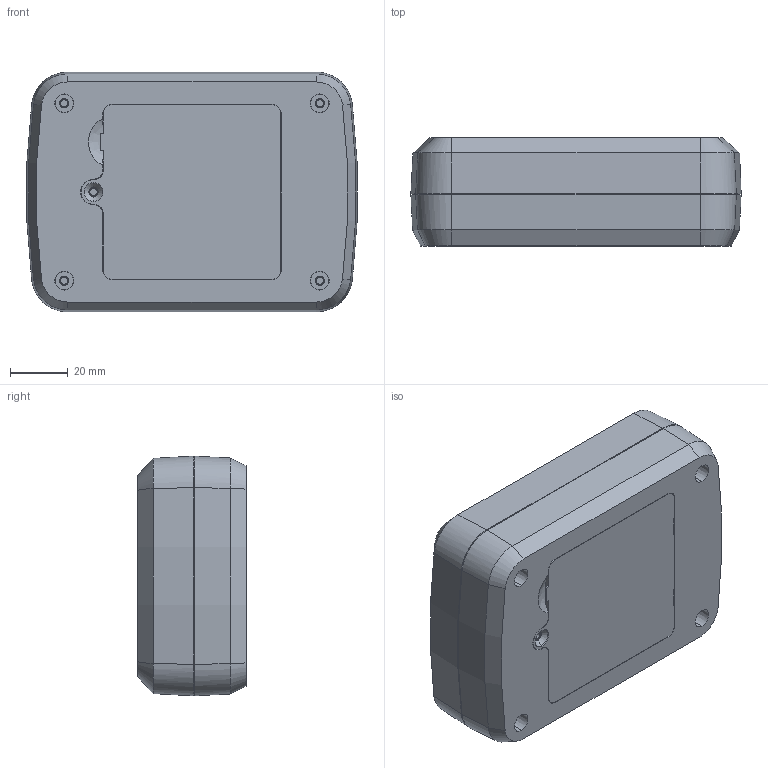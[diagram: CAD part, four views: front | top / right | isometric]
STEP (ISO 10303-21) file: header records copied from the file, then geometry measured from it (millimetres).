
FILE_DESCRIPTION (( 'STEP AP203' ), '1' );
FILE_NAME ('HH-048.STEP', '2024-03-06T09:37:55', ( '' ), ( '' ), 'SwSTEP 2.0', 'SolidWorks 2013', '' );
FILE_SCHEMA (( 'CONFIG_CONTROL_DESIGN' ));
Length unit declared in the file: millimetre
Products named in the file (6): cover_2; cover; base; HH-048; base_2
Assembly tree (5 placements, depth 3):
  HH-048
    base
      base
      base_2
    cover
      cover_2
Bounding box: 113.98 x 37.3 x 82.7 mm (x, y, z)
Volume: 78987.4 mm3; surface area: 81740.3 mm2
Topology: 3 solids, 3 shells, 545 faces, 1488 edges, 977 vertices
Faces by surface type: plane 351, cone 82, bspline 74, cylinder 38
Entity records: 25893 total; most frequent: CARTESIAN_POINT 12032, ORIENTED_EDGE 2976, DIRECTION 2332, EDGE_CURVE 1488, LINE 1060, VECTOR 1060, VERTEX_POINT 977, AXIS2_PLACEMENT_3D 636
